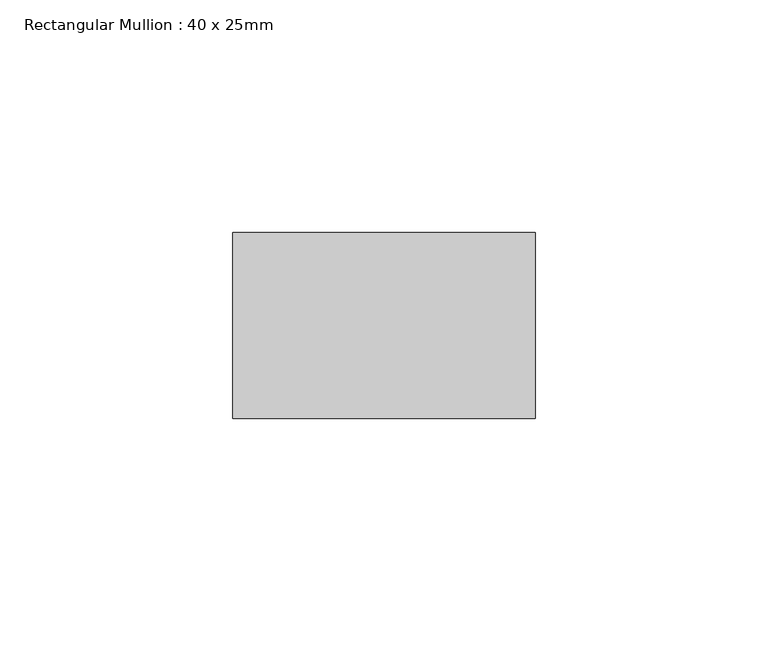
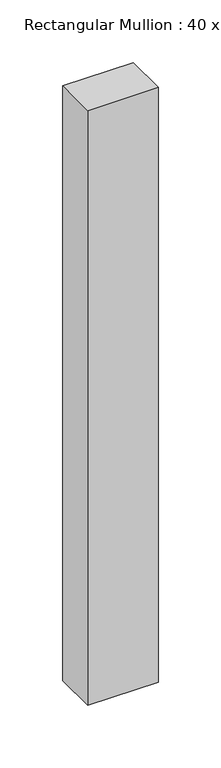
"""IFC4 building model written with IfcOpenShell, lengths in millimetres: member geometry, Rectangular Mullion : 40 x 25mm."""

from ifc_helpers import new_model, si_unit, frame, origin, place, context, project, spatial, polyline, outline, extrude, source, transform, mapped, element, save


def rectangular_mullion_40_x_25mm_ef2e0a9b(model_context):
    return source(origin(), model_context, "Body", "SweptSolid", [
        extrude(outline(polyline([(0.0, -20.0), (0.0, -60.0), (-65.0, -60.0), (-65.0, -20.0), (0.0, -20.0)])), frame((0.0, 0.0, -580.0), z_axis=(0.0, 0.0, 1.0), x_axis=(1.0, 0.0, 0.0)), (0.0, 0.0, 1.0), 580.0),
    ])


if __name__ == "__main__":
    model = new_model("IFC4")
    model_context = context("Model", 3, world=origin())
    ifc_project = project(units=[si_unit("LENGTHUNIT", "METRE", prefix="MILLI")], contexts=[model_context])
    site = spatial("IfcSite", under=ifc_project)
    building = spatial("IfcBuilding", under=site)
    placement = place(None, origin())
    rectangular_mullion_40_x_25mm_shape = rectangular_mullion_40_x_25mm_ef2e0a9b(model_context)
    element("IfcMember", 1, ObjectType="Rectangular Mullion : 40 x 25mm", at=placement, inside=building, context=model_context, shape_type="MappedRepresentation", body=[
        mapped(rectangular_mullion_40_x_25mm_shape, transform((0.0, 0.0, 0.0), x_axis=(1.0, 0.0, 0.0), y_axis=(0.0, 1.0, 0.0), z_axis=(0.0, 0.0, 1.0))),
    ])
    save(model, "model.ifc")
